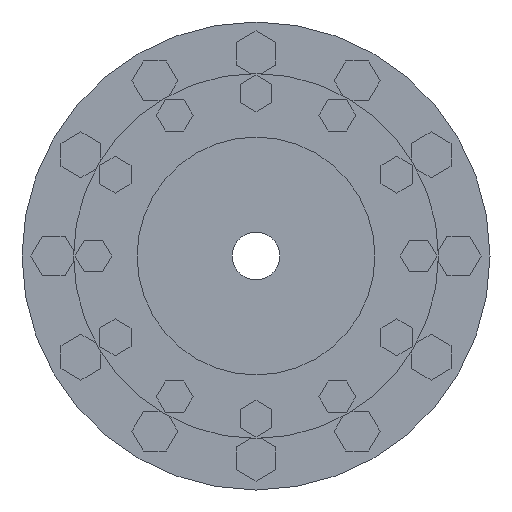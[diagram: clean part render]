
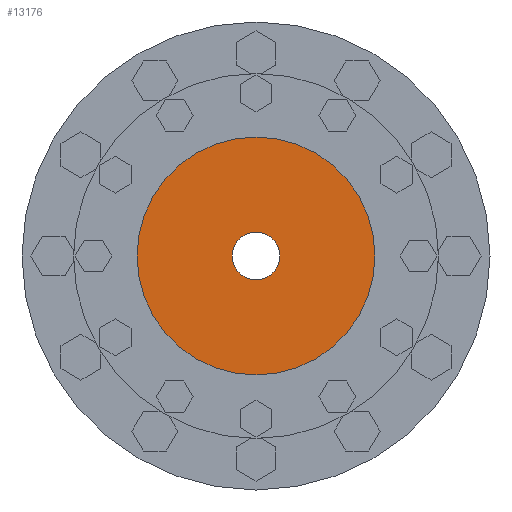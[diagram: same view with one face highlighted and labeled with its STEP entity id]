
A CAD part, left-side view. The second image highlights one B-rep face of the part: STEP entity #13176.
In plain terms, the highlighted planar face has unit normal (-1, 0, 0).
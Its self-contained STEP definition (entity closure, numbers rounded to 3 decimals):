
#12874=CARTESIAN_POINT('',(-65.5,0.,0.));
#12875=DIRECTION('',(1.,0.,0.));
#12876=DIRECTION('',(0.,1.,0.));
#12877=AXIS2_PLACEMENT_3D('',#12874,#12875,#12876);
#12953=CARTESIAN_POINT('',(-65.5,0.,0.));
#12954=DIRECTION('',(-1.,0.,0.));
#12955=DIRECTION('',(0.,1.,0.));
#12956=AXIS2_PLACEMENT_3D('',#12953,#12954,#12955);
#12958=CARTESIAN_POINT('',(-65.5,0.,0.));
#12959=DIRECTION('',(1.,0.,0.));
#12960=DIRECTION('',(0.,1.,0.));
#12961=AXIS2_PLACEMENT_3D('',#12958,#12959,#12960);
#12972=CARTESIAN_POINT('',(-65.5,0.,0.));
#12973=DIRECTION('',(-1.,0.,0.));
#12974=DIRECTION('',(0.,1.,0.));
#12975=AXIS2_PLACEMENT_3D('',#12972,#12973,#12974);
#12981=CARTESIAN_POINT('',(-65.5,6.,0.));
#12982=CARTESIAN_POINT('',(-65.5,-6.,0.));
#12983=VERTEX_POINT('',#12981);
#12984=VERTEX_POINT('',#12982);
#12985=CARTESIAN_POINT('',(-65.5,30.,0.));
#12986=CARTESIAN_POINT('',(-65.5,-30.,0.));
#12987=VERTEX_POINT('',#12985);
#12988=VERTEX_POINT('',#12986);
#13162=CARTESIAN_POINT('',(-65.5,0.,0.));
#13163=DIRECTION('',(1.,0.,0.));
#13164=DIRECTION('',(0.,-1.,0.));
#13165=AXIS2_PLACEMENT_3D('',#13162,#13163,#13164);
#13166=PLANE('',#13165);
#13167=ORIENTED_EDGE('',*,*,#13144,.F.);
#13168=ORIENTED_EDGE('',*,*,#13157,.T.);
#13169=EDGE_LOOP('',(#13167,#13168));
#13170=FACE_OUTER_BOUND('',#13169,.F.);
#13171=ORIENTED_EDGE('',*,*,#13022,.F.);
#13173=ORIENTED_EDGE('',*,*,#13172,.T.);
#13174=EDGE_LOOP('',(#13171,#13173));
#13175=FACE_BOUND('',#13174,.F.);
#13176=ADVANCED_FACE('',(#13170,#13175),#13166,.F.);
#12878=CIRCLE('',#12877,6.);
#12957=CIRCLE('',#12956,30.);
#12962=CIRCLE('',#12961,30.);
#12976=CIRCLE('',#12975,6.);
#13022=EDGE_CURVE('',#12983,#12984,#12878,.T.);
#13144=EDGE_CURVE('',#12987,#12988,#12957,.T.);
#13157=EDGE_CURVE('',#12987,#12988,#12962,.T.);
#13172=EDGE_CURVE('',#12983,#12984,#12976,.T.);
